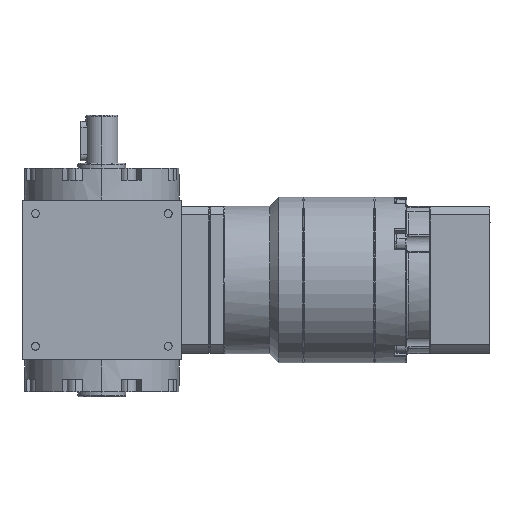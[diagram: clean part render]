
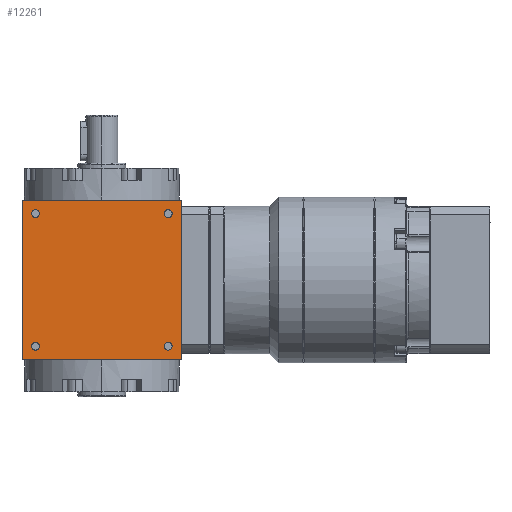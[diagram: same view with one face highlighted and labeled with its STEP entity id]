
A CAD part, left-side view. The second image highlights one B-rep face of the part: STEP entity #12261.
In plain terms, the highlighted planar face has unit normal (-1, 0, 0).
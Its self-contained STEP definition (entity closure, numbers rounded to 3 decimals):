
#153 = FACE_BOUND ( 'NONE', #40702, .T. ) ;
#294 = CARTESIAN_POINT ( 'NONE',  ( -32.5, -27., -25.4 ) ) ;
#448 = EDGE_CURVE ( 'NONE', #885, #28473, #39407, .T. ) ;
#745 = CIRCLE ( 'NONE', #19370, 1.6 ) ;
#885 = VERTEX_POINT ( 'NONE', #38434 ) ;
#985 = DIRECTION ( 'NONE',  ( 0., 0., 1. ) ) ;
#1279 = VERTEX_POINT ( 'NONE', #12679 ) ;
#1740 = ORIENTED_EDGE ( 'NONE', *, *, #13489, .T. ) ;
#2373 = CARTESIAN_POINT ( 'NONE',  ( -32.5, -27., -28.6 ) ) ;
#2870 = VERTEX_POINT ( 'NONE', #33176 ) ;
#3843 = CARTESIAN_POINT ( 'NONE',  ( -32.5, 32.5, 32.5 ) ) ;
#4098 = DIRECTION ( 'NONE',  ( -1., 0., 0. ) ) ;
#4679 = DIRECTION ( 'NONE',  ( 0., 0., 1. ) ) ;
#5382 = DIRECTION ( 'NONE',  ( 1., 0., 0. ) ) ;
#6710 = CIRCLE ( 'NONE', #17138, 1.6 ) ;
#7468 = DIRECTION ( 'NONE',  ( 0., 0., 1. ) ) ;
#7503 = EDGE_CURVE ( 'NONE', #38316, #885, #44731, .T. ) ;
#7590 = FACE_BOUND ( 'NONE', #28268, .T. ) ;
#8167 = AXIS2_PLACEMENT_3D ( 'NONE', #40491, #23006, #15799 ) ;
#9112 = VECTOR ( 'NONE', #13608, 1000. ) ;
#9740 = VECTOR ( 'NONE', #33555, 1000. ) ;
#10101 = CARTESIAN_POINT ( 'NONE',  ( -32.5, 32.5, -32.5 ) ) ;
#10232 = DIRECTION ( 'NONE',  ( 1., 0., 0. ) ) ;
#10343 = EDGE_CURVE ( 'NONE', #27427, #21083, #25253, .T. ) ;
#10828 = EDGE_CURVE ( 'NONE', #36126, #46087, #21559, .T. ) ;
#11082 = PLANE ( 'NONE',  #23905 ) ;
#11812 = EDGE_LOOP ( 'NONE', ( #43794, #14242 ) ) ;
#12108 = ORIENTED_EDGE ( 'NONE', *, *, #10343, .T. ) ;
#12261 = ADVANCED_FACE ( 'NONE', ( #17878, #153, #14580, #7590, #42995 ), #11082, .T. ) ;
#12679 = CARTESIAN_POINT ( 'NONE',  ( -32.5, 27., -28.6 ) ) ;
#12912 = EDGE_LOOP ( 'NONE', ( #16600, #24269, #38776, #37325 ) ) ;
#13061 = ORIENTED_EDGE ( 'NONE', *, *, #44707, .T. ) ;
#13354 = CIRCLE ( 'NONE', #37950, 1.6 ) ;
#13489 = EDGE_CURVE ( 'NONE', #43462, #44193, #745, .T. ) ;
#13583 = DIRECTION ( 'NONE',  ( 0., -1., 0. ) ) ;
#13608 = DIRECTION ( 'NONE',  ( 0., 0., 1. ) ) ;
#14242 = ORIENTED_EDGE ( 'NONE', *, *, #24488, .T. ) ;
#14580 = FACE_BOUND ( 'NONE', #11812, .T. ) ;
#14669 = DIRECTION ( 'NONE',  ( 1., 0., 0. ) ) ;
#15799 = DIRECTION ( 'NONE',  ( 0., 0., 1. ) ) ;
#16600 = ORIENTED_EDGE ( 'NONE', *, *, #40248, .F. ) ;
#17138 = AXIS2_PLACEMENT_3D ( 'NONE', #34716, #34282, #37758 ) ;
#17454 = EDGE_LOOP ( 'NONE', ( #38284, #13061 ) ) ;
#17878 = FACE_OUTER_BOUND ( 'NONE', #12912, .T. ) ;
#18470 = CIRCLE ( 'NONE', #31131, 1.6 ) ;
#18503 = CARTESIAN_POINT ( 'NONE',  ( -32.5, -27., 25.4 ) ) ;
#18713 = DIRECTION ( 'NONE',  ( 1., 0., 0. ) ) ;
#19370 = AXIS2_PLACEMENT_3D ( 'NONE', #37986, #10232, #21200 ) ;
#19888 = CARTESIAN_POINT ( 'NONE',  ( -32.5, 0., -32.5 ) ) ;
#21083 = VERTEX_POINT ( 'NONE', #294 ) ;
#21200 = DIRECTION ( 'NONE',  ( 0., 0., 1. ) ) ;
#21408 = ORIENTED_EDGE ( 'NONE', *, *, #31484, .T. ) ;
#21559 = CIRCLE ( 'NONE', #8167, 1.6 ) ;
#21686 = AXIS2_PLACEMENT_3D ( 'NONE', #36829, #5382, #4679 ) ;
#22803 = EDGE_CURVE ( 'NONE', #44193, #43462, #13354, .T. ) ;
#23006 = DIRECTION ( 'NONE',  ( 1., 0., 0. ) ) ;
#23905 = AXIS2_PLACEMENT_3D ( 'NONE', #42781, #4098, #25076 ) ;
#24025 = VERTEX_POINT ( 'NONE', #33368 ) ;
#24147 = EDGE_CURVE ( 'NONE', #2870, #28473, #45029, .T. ) ;
#24269 = ORIENTED_EDGE ( 'NONE', *, *, #24147, .T. ) ;
#24411 = AXIS2_PLACEMENT_3D ( 'NONE', #29697, #43937, #44373 ) ;
#24488 = EDGE_CURVE ( 'NONE', #46087, #36126, #6710, .T. ) ;
#25076 = DIRECTION ( 'NONE',  ( 0., -1., 0. ) ) ;
#25176 = CIRCLE ( 'NONE', #24411, 1.6 ) ;
#25253 = CIRCLE ( 'NONE', #45323, 1.6 ) ;
#25512 = ORIENTED_EDGE ( 'NONE', *, *, #22803, .T. ) ;
#26787 = CARTESIAN_POINT ( 'NONE',  ( -32.5, 0., 32.5 ) ) ;
#27427 = VERTEX_POINT ( 'NONE', #2373 ) ;
#28233 = EDGE_CURVE ( 'NONE', #24025, #1279, #18470, .T. ) ;
#28268 = EDGE_LOOP ( 'NONE', ( #21408, #12108 ) ) ;
#28473 = VERTEX_POINT ( 'NONE', #42418 ) ;
#29121 = DIRECTION ( 'NONE',  ( 1., 0., 0. ) ) ;
#29697 = CARTESIAN_POINT ( 'NONE',  ( -32.5, 27., -27. ) ) ;
#31131 = AXIS2_PLACEMENT_3D ( 'NONE', #36387, #18713, #985 ) ;
#31484 = EDGE_CURVE ( 'NONE', #21083, #27427, #35072, .T. ) ;
#32609 = CARTESIAN_POINT ( 'NONE',  ( -32.5, -27., -27. ) ) ;
#33176 = CARTESIAN_POINT ( 'NONE',  ( -32.5, 32.5, -32.5 ) ) ;
#33368 = CARTESIAN_POINT ( 'NONE',  ( -32.5, 27., -25.4 ) ) ;
#33555 = DIRECTION ( 'NONE',  ( 0., -1., 0. ) ) ;
#34282 = DIRECTION ( 'NONE',  ( 1., 0., 0. ) ) ;
#34716 = CARTESIAN_POINT ( 'NONE',  ( -32.5, -27., 27. ) ) ;
#35072 = CIRCLE ( 'NONE', #21686, 1.6 ) ;
#35804 = CARTESIAN_POINT ( 'NONE',  ( -32.5, 27., 25.4 ) ) ;
#35878 = CARTESIAN_POINT ( 'NONE',  ( -32.5, 27., 28.6 ) ) ;
#36126 = VERTEX_POINT ( 'NONE', #44260 ) ;
#36387 = CARTESIAN_POINT ( 'NONE',  ( -32.5, 27., -27. ) ) ;
#36829 = CARTESIAN_POINT ( 'NONE',  ( -32.5, -27., -27. ) ) ;
#37325 = ORIENTED_EDGE ( 'NONE', *, *, #7503, .F. ) ;
#37758 = DIRECTION ( 'NONE',  ( 0., 0., 1. ) ) ;
#37950 = AXIS2_PLACEMENT_3D ( 'NONE', #44039, #29121, #43557 ) ;
#37986 = CARTESIAN_POINT ( 'NONE',  ( -32.5, 27., 27. ) ) ;
#38284 = ORIENTED_EDGE ( 'NONE', *, *, #28233, .T. ) ;
#38316 = VERTEX_POINT ( 'NONE', #3843 ) ;
#38434 = CARTESIAN_POINT ( 'NONE',  ( -32.5, -32.5, 32.5 ) ) ;
#38733 = CARTESIAN_POINT ( 'NONE',  ( -32.5, -32.5, -32.5 ) ) ;
#38776 = ORIENTED_EDGE ( 'NONE', *, *, #448, .F. ) ;
#39407 = LINE ( 'NONE', #38733, #45938 ) ;
#40248 = EDGE_CURVE ( 'NONE', #2870, #38316, #45534, .T. ) ;
#40491 = CARTESIAN_POINT ( 'NONE',  ( -32.5, -27., 27. ) ) ;
#40702 = EDGE_LOOP ( 'NONE', ( #25512, #1740 ) ) ;
#41989 = DIRECTION ( 'NONE',  ( 0., 0., -1. ) ) ;
#42418 = CARTESIAN_POINT ( 'NONE',  ( -32.5, -32.5, -32.5 ) ) ;
#42781 = CARTESIAN_POINT ( 'NONE',  ( -32.5, 32.5, -32.5 ) ) ;
#42995 = FACE_BOUND ( 'NONE', #17454, .T. ) ;
#43227 = VECTOR ( 'NONE', #13583, 1000. ) ;
#43462 = VERTEX_POINT ( 'NONE', #35804 ) ;
#43557 = DIRECTION ( 'NONE',  ( 0., 0., 1. ) ) ;
#43794 = ORIENTED_EDGE ( 'NONE', *, *, #10828, .T. ) ;
#43937 = DIRECTION ( 'NONE',  ( 1., 0., 0. ) ) ;
#44039 = CARTESIAN_POINT ( 'NONE',  ( -32.5, 27., 27. ) ) ;
#44193 = VERTEX_POINT ( 'NONE', #35878 ) ;
#44260 = CARTESIAN_POINT ( 'NONE',  ( -32.5, -27., 28.6 ) ) ;
#44373 = DIRECTION ( 'NONE',  ( 0., 0., 1. ) ) ;
#44707 = EDGE_CURVE ( 'NONE', #1279, #24025, #25176, .T. ) ;
#44731 = LINE ( 'NONE', #26787, #9740 ) ;
#45029 = LINE ( 'NONE', #19888, #43227 ) ;
#45323 = AXIS2_PLACEMENT_3D ( 'NONE', #32609, #14669, #7468 ) ;
#45534 = LINE ( 'NONE', #10101, #9112 ) ;
#45938 = VECTOR ( 'NONE', #41989, 1000. ) ;
#46087 = VERTEX_POINT ( 'NONE', #18503 ) ;
